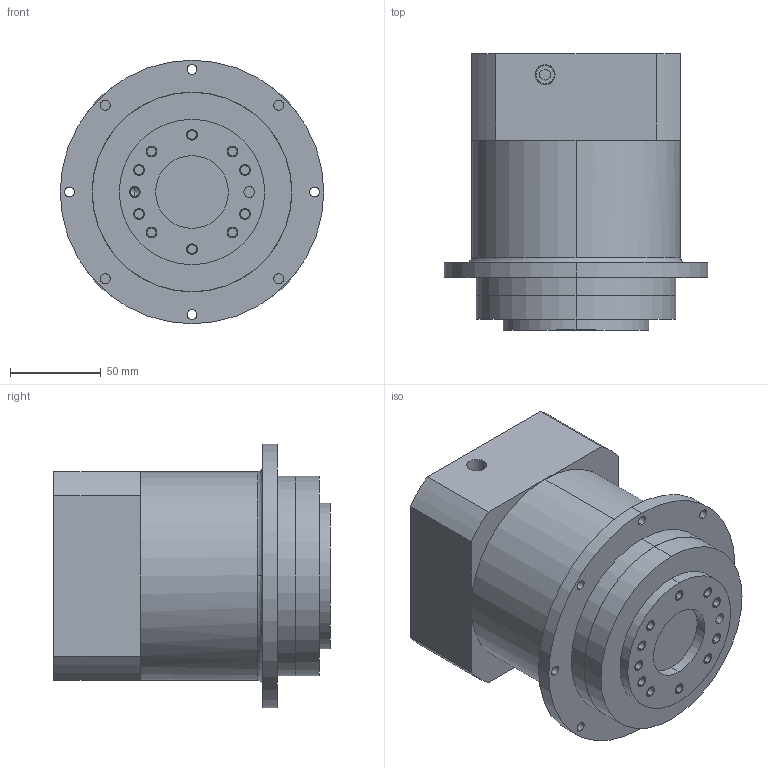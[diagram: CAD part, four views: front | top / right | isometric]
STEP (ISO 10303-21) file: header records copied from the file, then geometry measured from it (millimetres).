
FILE_DESCRIPTION (( 'STEP AP214' ), '1' );
FILE_NAME ('GBPN-1102-FS.STEP', '2011-09-21T22:17:27', ( '' ), ( '' ), 'SwSTEP 2.0', 'SolidWorks 2011', '' );
FILE_SCHEMA (( 'AUTOMOTIVE_DESIGN' ));
Length unit declared in the file: millimetre
Products named in the file (5): M8_10_1; M6_10_1; 210-288_065-000_1; PLFE110_2; GBPN-1102-FS
Assembly tree (7 placements, depth 2):
  GBPN-1102-FS
    M8_10_1  x4
    210-288_065-000_1
    M6_10_1
    PLFE110_2
Bounding box: 145 x 152 x 145 mm (x, y, z)
Surface area: 128298.8 mm2 (no closed solid volume)
Topology: 0 solids, 28 shells, 293 faces, 695 edges, 470 vertices
Faces by surface type: cylinder 156, plane 116, cone 19, bspline 2
Entity records: 9281 total; most frequent: CARTESIAN_POINT 3366, DIRECTION 1286, ORIENTED_EDGE 1060, EDGE_CURVE 567, AXIS2_PLACEMENT_3D 537, VERTEX_POINT 386, EDGE_LOOP 305, CIRCLE 293
